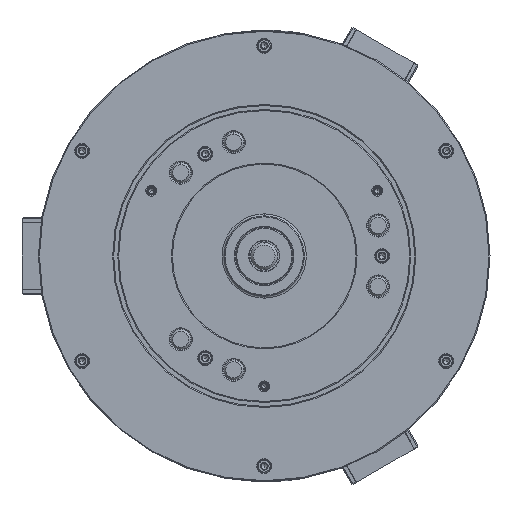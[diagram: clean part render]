
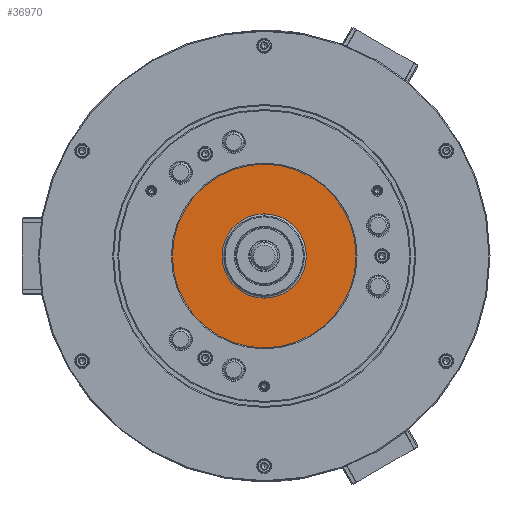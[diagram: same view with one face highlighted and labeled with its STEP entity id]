
A CAD part, left-side view. The second image highlights one B-rep face of the part: STEP entity #36970.
In plain terms, the highlighted planar face has unit normal (-1, 0, 0).
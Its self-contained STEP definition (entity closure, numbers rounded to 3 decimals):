
#211 = CARTESIAN_POINT ( 'NONE',  ( -111.5, 0., 0. ) ) ;
#593 = EDGE_CURVE ( 'NONE', #59384, #18566, #30374, .T. ) ;
#11092 = EDGE_CURVE ( 'NONE', #128417, #129673, #79410, .T. ) ;
#13058 = CIRCLE ( 'NONE', #13380, 42. ) ;
#13380 = AXIS2_PLACEMENT_3D ( 'NONE', #105841, #17848, #94109 ) ;
#16240 = AXIS2_PLACEMENT_3D ( 'NONE', #211, #31731, #132848 ) ;
#17848 = DIRECTION ( 'NONE',  ( -1., 0., 0. ) ) ;
#18566 = VERTEX_POINT ( 'NONE', #116303 ) ;
#23129 = CARTESIAN_POINT ( 'NONE',  ( -111.5, 0., 0. ) ) ;
#30374 = CIRCLE ( 'NONE', #121565, 91.54 ) ;
#31161 = DIRECTION ( 'NONE',  ( 1., 0., 0. ) ) ;
#31404 = ORIENTED_EDGE ( 'NONE', *, *, #11092, .F. ) ;
#31731 = DIRECTION ( 'NONE',  ( -1., 0., 0. ) ) ;
#36970 = ADVANCED_FACE ( 'NONE', ( #97821, #109570 ), #54569, .F. ) ;
#43685 = DIRECTION ( 'NONE',  ( -1., 0., 0. ) ) ;
#48388 = DIRECTION ( 'NONE',  ( -1., 0., 0. ) ) ;
#49218 = CARTESIAN_POINT ( 'NONE',  ( -111.5, 0., 42. ) ) ;
#54569 = PLANE ( 'NONE',  #132595 ) ;
#56318 = EDGE_LOOP ( 'NONE', ( #97156, #72671 ) ) ;
#59384 = VERTEX_POINT ( 'NONE', #132167 ) ;
#60897 = EDGE_CURVE ( 'NONE', #18566, #59384, #132052, .T. ) ;
#72671 = ORIENTED_EDGE ( 'NONE', *, *, #593, .T. ) ;
#79410 = CIRCLE ( 'NONE', #16240, 42. ) ;
#89920 = AXIS2_PLACEMENT_3D ( 'NONE', #92364, #48388, #116539 ) ;
#92364 = CARTESIAN_POINT ( 'NONE',  ( -111.5, 0., 0. ) ) ;
#94109 = DIRECTION ( 'NONE',  ( 0., 0., 1. ) ) ;
#94263 = ORIENTED_EDGE ( 'NONE', *, *, #123100, .F. ) ;
#97156 = ORIENTED_EDGE ( 'NONE', *, *, #60897, .T. ) ;
#97821 = FACE_BOUND ( 'NONE', #103399, .T. ) ;
#103399 = EDGE_LOOP ( 'NONE', ( #94263, #31404 ) ) ;
#105841 = CARTESIAN_POINT ( 'NONE',  ( -111.5, 0., 0. ) ) ;
#109570 = FACE_OUTER_BOUND ( 'NONE', #56318, .T. ) ;
#111406 = CARTESIAN_POINT ( 'NONE',  ( -111.5, 0., -42. ) ) ;
#116303 = CARTESIAN_POINT ( 'NONE',  ( -111.5, 0., 91.54 ) ) ;
#116539 = DIRECTION ( 'NONE',  ( 0., 0., 1. ) ) ;
#121565 = AXIS2_PLACEMENT_3D ( 'NONE', #23129, #43685, #131621 ) ;
#123100 = EDGE_CURVE ( 'NONE', #129673, #128417, #13058, .T. ) ;
#128417 = VERTEX_POINT ( 'NONE', #111406 ) ;
#129673 = VERTEX_POINT ( 'NONE', #49218 ) ;
#131621 = DIRECTION ( 'NONE',  ( 0., 0., 1. ) ) ;
#132052 = CIRCLE ( 'NONE', #89920, 91.54 ) ;
#132167 = CARTESIAN_POINT ( 'NONE',  ( -111.5, 0., -91.54 ) ) ;
#132595 = AXIS2_PLACEMENT_3D ( 'NONE', #142520, #31161, #144689 ) ;
#132848 = DIRECTION ( 'NONE',  ( 0., 0., 1. ) ) ;
#142520 = CARTESIAN_POINT ( 'NONE',  ( -111.5, 91.54, 0. ) ) ;
#144689 = DIRECTION ( 'NONE',  ( 0., 0., -1. ) ) ;
